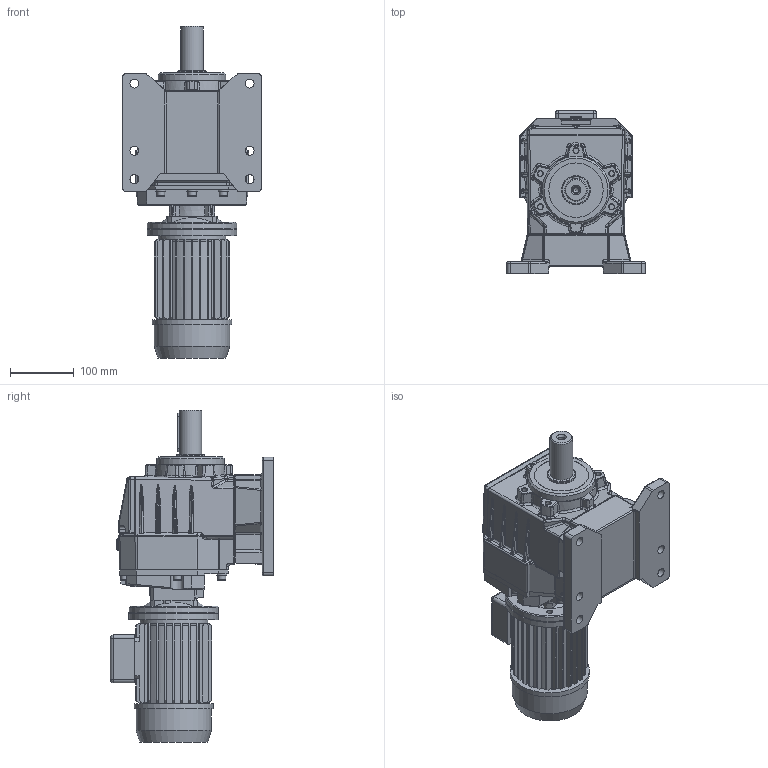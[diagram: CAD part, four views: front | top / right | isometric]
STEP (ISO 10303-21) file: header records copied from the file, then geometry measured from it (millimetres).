
FILE_DESCRIPTION( ( 'Unknown' ), '1' );
FILE_NAME( 'E:/services/configuratordownloads/customers/HYDROMEC/COASSIALI/download/6AAD74845B3D2673EE5141DE59B8B/STEP/6AAD74845B3D2673EE5141DE59B8B.3d.stp', 'Unknown', ( 'Unknown' ), ( 'Unknown' ), 'PSStep 10.1', 'Unknown', ' ' );
FILE_SCHEMA( ( 'AUTOMOTIVE_DESIGN { 1 0 10303 214 1 1 1 1 }' ) );
Length unit declared in the file: millimetre
Products named in the file (1): C618800
Bounding box: 216 x 255.05 x 519 mm (x, y, z)
Volume: 8587549.9 mm3; surface area: 512389.7 mm2
Topology: 1 solids, 29 shells, 1645 faces, 4064 edges, 2540 vertices
Faces by surface type: plane 840, cylinder 400, bspline 212, cone 108, torus 55, sphere 26, extrusion 4
Full cylindrical faces by diameter (mm): 6 x6, 6.5 x1, 6.647 x4, 7.175 x6, 8 x4, 8.376 x6, 8.5 x8, 9 x4, 10 x6, 10.106 x4, 10.5 x1, 11.3 x1, 11.445 x2, 12.75 x8, 13 x7, 13.5 x1, 14 x6, 18 x1, 19 x1, 22 x1, 35 x2, 35.5 x1, 45 x1, 47 x2, 85 x1, 95 x1, 105 x1, 105.986 x1, 106 x1, 118 x1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
Entity records: 72872 total; most frequent: CARTESIAN_POINT 23196, ORIENTED_EDGE 7594, DIRECTION 7095, EDGE_CURVE 3797, AXIS2_PLACEMENT_3D 2480, VERTEX_POINT 2462, VECTOR 2135, LINE 2131
